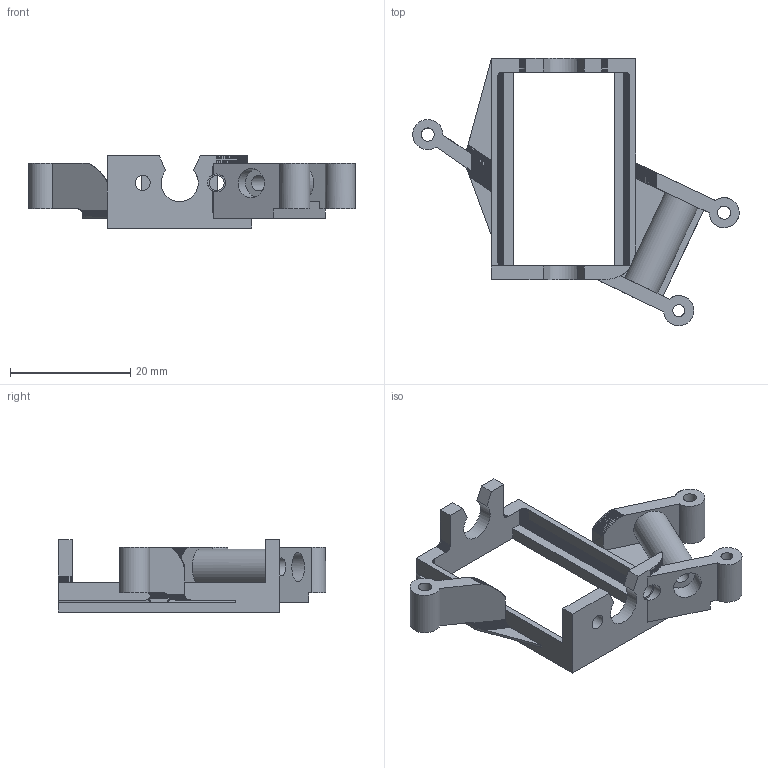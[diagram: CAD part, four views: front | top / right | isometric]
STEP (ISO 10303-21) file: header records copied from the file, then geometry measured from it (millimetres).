
FILE_DESCRIPTION(('Open CASCADE Model'),'2;1');
FILE_NAME('Open CASCADE Shape Model','2026-10-27T00:45:10',('Author'),( 'Open CASCADE'),'Open CASCADE STEP processor 7.9','Open CASCADE 7.9' ,'Unknown');
FILE_SCHEMA(('AUTOMOTIVE_DESIGN { 1 0 10303 214 1 1 1 1 }'));
Length unit declared in the file: millimetre
Products named in the file (1): Open CASCADE STEP translator 7.9 1
Bounding box: 54.26 x 44.43 x 12 mm (x, y, z)
Volume: 3280.6 mm3; surface area: 4303 mm2
Topology: 1 solids, 1 shells, 1896 faces, 3490 edges, 1596 vertices
Faces by surface type: plane 1140, bspline 741, cylinder 15
Full cylindrical faces by diameter (mm): 2 x1, 2.2 x2, 2.5 x2, 2.6 x1, 3 x1, 4.85 x2
Entity records: 103229 total; most frequent: CARTESIAN_POINT 51276, B_SPLINE_CURVE_WITH_KNOTS 10005, ORIENTED_EDGE 6980, PCURVE 6980, DEFINITIONAL_REPRESENTATION 6980, EDGE_CURVE 3490, SURFACE_CURVE 3481, DIRECTION 2782
